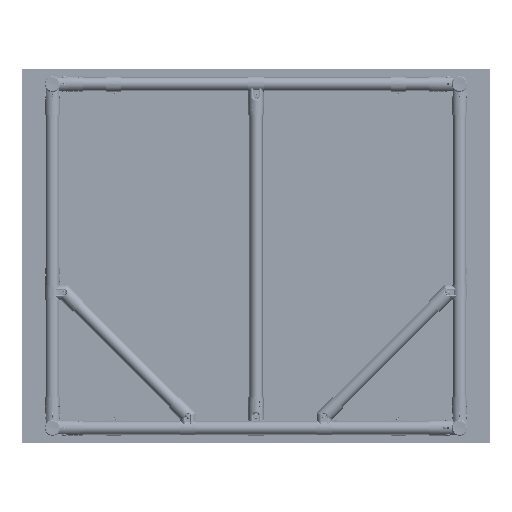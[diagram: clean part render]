
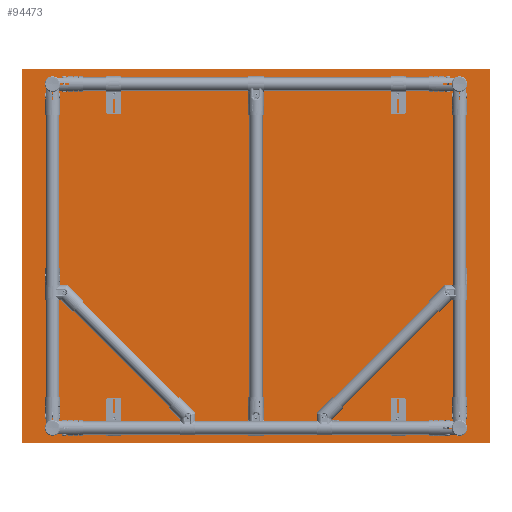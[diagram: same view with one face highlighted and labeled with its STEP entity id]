
A CAD part, front view. The second image highlights one B-rep face of the part: STEP entity #94473.
In plain terms, the highlighted planar face has unit normal (0, -1, 0) as drawn and (0, 0, -1) by its records, which use the part's own axes.
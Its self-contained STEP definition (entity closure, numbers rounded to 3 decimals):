
#3879 = VECTOR ( 'NONE', #16045, 1000. ) ;
#8506 = EDGE_CURVE ( 'NONE', #19796, #32650, #18782, .T. ) ;
#8726 = CARTESIAN_POINT ( 'NONE',  ( 0., -399.2, 0. ) ) ;
#16045 = DIRECTION ( 'NONE',  ( 0., -1., 0. ) ) ;
#16544 = LINE ( 'NONE', #80781, #3879 ) ;
#18782 = LINE ( 'NONE', #8726, #30900 ) ;
#19796 = VERTEX_POINT ( 'NONE', #76223 ) ;
#20917 = PLANE ( 'NONE',  #76962 ) ;
#30900 = VECTOR ( 'NONE', #90963, 1000. ) ;
#31342 = CARTESIAN_POINT ( 'NONE',  ( -499.2, 0., 0. ) ) ;
#32650 = VERTEX_POINT ( 'NONE', #40421 ) ;
#38261 = ORIENTED_EDGE ( 'NONE', *, *, #8506, .T. ) ;
#39174 = CARTESIAN_POINT ( 'NONE',  ( 499.2, 399.2, 0. ) ) ;
#40421 = CARTESIAN_POINT ( 'NONE',  ( -499.2, -399.2, 0. ) ) ;
#40892 = CARTESIAN_POINT ( 'NONE',  ( 0., 399.2, 0. ) ) ;
#40934 = ORIENTED_EDGE ( 'NONE', *, *, #45492, .T. ) ;
#44315 = DIRECTION ( 'NONE',  ( 0., 0., 1. ) ) ;
#45492 = EDGE_CURVE ( 'NONE', #88319, #19796, #16544, .T. ) ;
#49984 = EDGE_LOOP ( 'NONE', ( #91875, #40934, #38261, #83183 ) ) ;
#56836 = LINE ( 'NONE', #31342, #78418 ) ;
#62913 = CARTESIAN_POINT ( 'NONE',  ( -499.2, 399.2, 0. ) ) ;
#64253 = DIRECTION ( 'NONE',  ( 1., 0., 0. ) ) ;
#66298 = LINE ( 'NONE', #40892, #102262 ) ;
#69175 = CARTESIAN_POINT ( 'NONE',  ( 0., 0., 0. ) ) ;
#69702 = DIRECTION ( 'NONE',  ( 1., 0., 0. ) ) ;
#76223 = CARTESIAN_POINT ( 'NONE',  ( 499.2, -399.2, 0. ) ) ;
#76962 = AXIS2_PLACEMENT_3D ( 'NONE', #69175, #44315, #69702 ) ;
#78418 = VECTOR ( 'NONE', #95003, 1000. ) ;
#80781 = CARTESIAN_POINT ( 'NONE',  ( 499.2, 0., 0. ) ) ;
#83183 = ORIENTED_EDGE ( 'NONE', *, *, #90679, .T. ) ;
#86454 = VERTEX_POINT ( 'NONE', #62913 ) ;
#88319 = VERTEX_POINT ( 'NONE', #39174 ) ;
#90679 = EDGE_CURVE ( 'NONE', #32650, #86454, #56836, .T. ) ;
#90963 = DIRECTION ( 'NONE',  ( -1., 0., 0. ) ) ;
#91875 = ORIENTED_EDGE ( 'NONE', *, *, #93443, .T. ) ;
#93443 = EDGE_CURVE ( 'NONE', #86454, #88319, #66298, .T. ) ;
#94473 = ADVANCED_FACE ( 'NONE', ( #101560 ), #20917, .F. ) ;
#95003 = DIRECTION ( 'NONE',  ( 0., 1., 0. ) ) ;
#101560 = FACE_OUTER_BOUND ( 'NONE', #49984, .T. ) ;
#102262 = VECTOR ( 'NONE', #64253, 1000. ) ;
